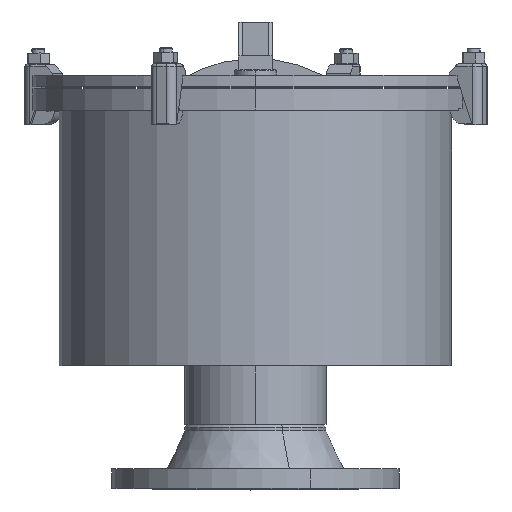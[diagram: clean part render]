
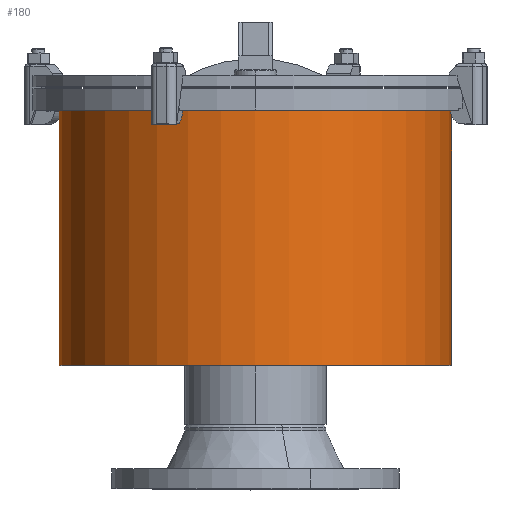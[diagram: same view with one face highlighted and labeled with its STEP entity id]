
A CAD part, top view. The second image highlights one B-rep face of the part: STEP entity #180.
In plain terms, the highlighted cylindrical face has radius 150 mm (diameter 300 mm), a full revolution.
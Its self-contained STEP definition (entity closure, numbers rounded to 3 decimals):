
#90=CARTESIAN_POINT('',(0.,0.,0.));
#91=DIRECTION('',(0.,-1.,0.));
#92=DIRECTION('',(0.866,0.,-0.5));
#93=AXIS2_PLACEMENT_3D('',#90,#91,#92);
#108=CARTESIAN_POINT('',(0.,200.,0.));
#109=DIRECTION('',(0.,1.,0.));
#110=DIRECTION('',(0.866,0.,-0.5));
#111=AXIS2_PLACEMENT_3D('',#108,#109,#110);
#113=DIRECTION('',(0.,-1.,0.));
#114=VECTOR('',#113,200.);
#115=CARTESIAN_POINT('',(129.929,200.,-74.957));
#116=LINE('',#115,#114);
#117=DIRECTION('',(0.,1.,0.));
#118=VECTOR('',#117,200.);
#119=CARTESIAN_POINT('',(129.879,0.,
-75.043));
#120=LINE('',#119,#118);
#134=CARTESIAN_POINT('',(129.929,200.,-74.957));
#135=CARTESIAN_POINT('',(129.879,200.,-75.043));
#136=VERTEX_POINT('',#134);
#137=VERTEX_POINT('',#135);
#142=CARTESIAN_POINT('',(129.929,0.,
-74.957));
#143=CARTESIAN_POINT('',(129.879,0.,
-75.043));
#144=VERTEX_POINT('',#142);
#145=VERTEX_POINT('',#143);
#166=CARTESIAN_POINT('',(0.,200.,0.));
#167=DIRECTION('',(0.,-1.,0.));
#168=DIRECTION('',(0.,0.,-1.));
#169=AXIS2_PLACEMENT_3D('',#166,#167,#168);
#170=CYLINDRICAL_SURFACE('',#169,150.);
#172=ORIENTED_EDGE('',*,*,#171,.T.);
#174=ORIENTED_EDGE('',*,*,#173,.T.);
#175=ORIENTED_EDGE('',*,*,#155,.T.);
#177=ORIENTED_EDGE('',*,*,#176,.T.);
#178=EDGE_LOOP('',(#172,#174,#175,#177));
#179=FACE_OUTER_BOUND('',#178,.F.);
#180=ADVANCED_FACE('',(#179),#170,.T.);
#94=CIRCLE('',#93,150.);
#112=CIRCLE('',#111,150.);
#155=EDGE_CURVE('',#144,#145,#94,.T.);
#171=EDGE_CURVE('',#137,#136,#112,.T.);
#173=EDGE_CURVE('',#136,#144,#116,.T.);
#176=EDGE_CURVE('',#145,#137,#120,.T.);
